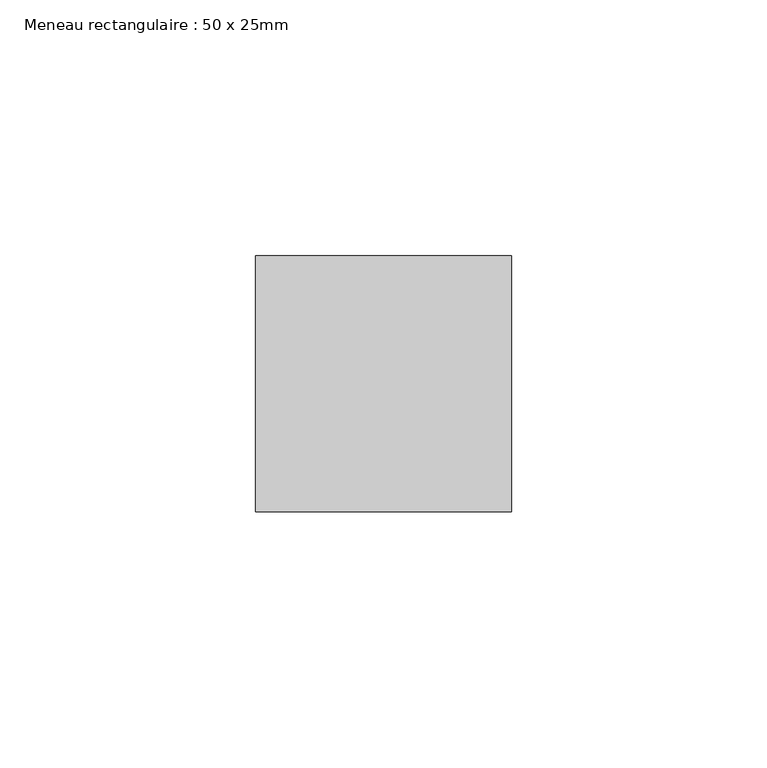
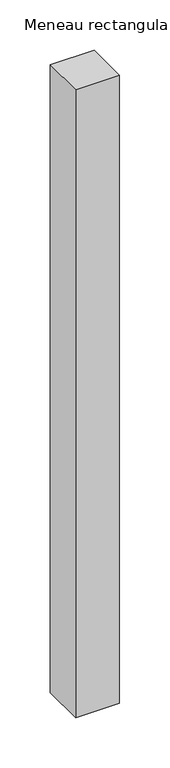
"""IFC4 building model written with IfcOpenShell, lengths in millimetres: member geometry, Meneau rectangulaire : 50 x 25mm."""

from ifc_helpers import new_model, si_unit, frame, origin, place, context, project, spatial, polyline, outline, extrude, source, transform, mapped, element, save


def meneau_rectangulaire_50_x_25mm_767d3184(model_context):
    return source(origin(), model_context, "Body", "SweptSolid", [
        extrude(outline(polyline([(0.0, 0.0), (0.0, -50.0), (-50.0, -50.0), (-50.0, 0.0), (0.0, 0.0)])), frame((0.0, 0.0, -760.0), z_axis=(0.0, 0.0, 1.0), x_axis=(1.0, 0.0, 0.0)), (0.0, 0.0, 1.0), 760.0),
    ])


if __name__ == "__main__":
    model = new_model("IFC4")
    model_context = context("Model", 3, world=origin())
    ifc_project = project(units=[si_unit("LENGTHUNIT", "METRE", prefix="MILLI")], contexts=[model_context])
    site = spatial("IfcSite", under=ifc_project)
    building = spatial("IfcBuilding", under=site)
    placement = place(None, origin())
    meneau_rectangulaire_50_x_25mm_shape = meneau_rectangulaire_50_x_25mm_767d3184(model_context)
    element("IfcMember", 1, ObjectType="Meneau rectangulaire : 50 x 25mm", at=placement, inside=building, context=model_context, shape_type="MappedRepresentation", body=[
        mapped(meneau_rectangulaire_50_x_25mm_shape, transform((0.0, 0.0, 0.0), x_axis=(1.0, 0.0, 0.0), y_axis=(0.0, 1.0, 0.0), z_axis=(0.0, 0.0, 1.0))),
    ])
    save(model, "model.ifc")
